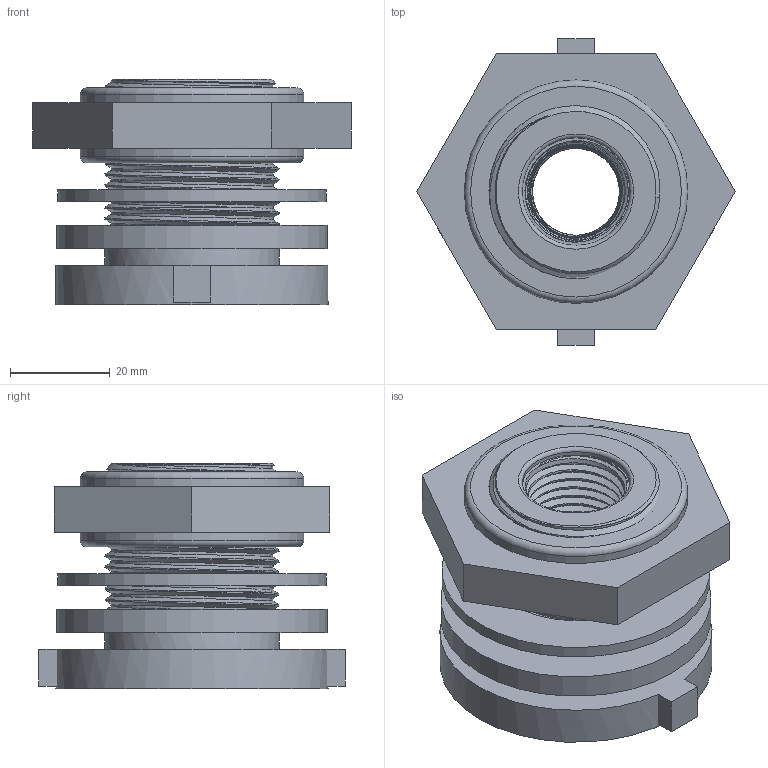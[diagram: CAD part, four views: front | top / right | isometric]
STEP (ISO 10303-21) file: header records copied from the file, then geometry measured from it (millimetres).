
FILE_DESCRIPTION(/* description */ ('Alibre Inc.'),/* implementation_level */ '2;1');
FILE_NAME(/* name */ 'export0',/* time_stamp */ '2017-10-21T11:10:31-04:00',/* author */ (''),/* organization */ (''),/* preprocessor_version */ 'ST-DEVELOPER v14',/* originating_system */ 'Alibre',/* authorisation */ '');
FILE_SCHEMA (('CONFIG_CONTROL_DESIGN'));
Products named in the file (5): ID_3; ID_1; ID_2
Bounding box: 63.94 x 61.47 x 45.21 mm (x, y, z)
Volume: 67911.1 mm3; surface area: 31696.7 mm2
Topology: 4 solids, 4 shells, 183 faces, 490 edges, 327 vertices
Faces by surface type: cylinder 68, cone 61, plane 38, bspline 12, torus 4
Full cylindrical faces by diameter (mm): 2.794 x6, 17.411 x1, 21.59 x2, 35.052 x1, 35.179 x2, 44.856 x2, 53.848 x1, 54.229 x1, 54.61 x1
Entity records: 42584 total; most frequent: CARTESIAN_POINT 38130, ORIENTED_EDGE 938, DIRECTION 636, EDGE_CURVE 469, VERTEX_POINT 328, AXIS2_PLACEMENT_3D 268, EDGE_LOOP 223, FACE_BOUND 223
